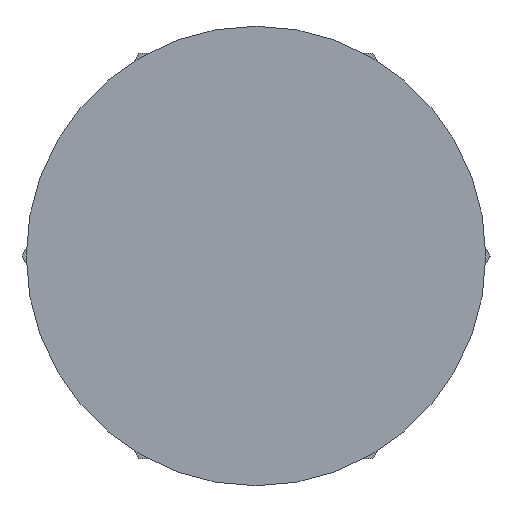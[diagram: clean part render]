
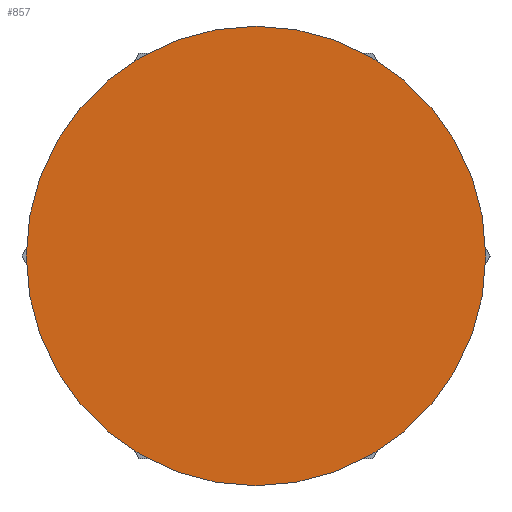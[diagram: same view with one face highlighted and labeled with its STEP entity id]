
A CAD part, left-side view. The second image highlights one B-rep face of the part: STEP entity #857.
In plain terms, the highlighted planar face has unit normal (-1, 0, 0).
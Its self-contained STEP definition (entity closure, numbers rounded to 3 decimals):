
#693 = CYLINDRICAL_SURFACE('',#694,2.7);
#694 = AXIS2_PLACEMENT_3D('',#695,#696,#697);
#695 = CARTESIAN_POINT('',(27.,0.,12.));
#696 = DIRECTION('',(-1.,-0.,-0.));
#697 = DIRECTION('',(0.,1.,0.));
#752 = VERTEX_POINT('',#753);
#753 = CARTESIAN_POINT('',(27.,2.7,12.));
#776 = EDGE_CURVE('',#752,#752,#777,.T.);
#777 = SURFACE_CURVE('',#778,(#783,#790),.PCURVE_S1.);
#778 = CIRCLE('',#779,2.7);
#779 = AXIS2_PLACEMENT_3D('',#780,#781,#782);
#780 = CARTESIAN_POINT('',(27.,0.,12.));
#781 = DIRECTION('',(1.,0.,0.));
#782 = DIRECTION('',(0.,1.,0.));
#783 = PCURVE('',#693,#784);
#784 = DEFINITIONAL_REPRESENTATION('',(#785),#789);
#785 = LINE('',#786,#787);
#786 = CARTESIAN_POINT('',(-0.,0.));
#787 = VECTOR('',#788,1.);
#788 = DIRECTION('',(-1.,0.));
#789 = ( GEOMETRIC_REPRESENTATION_CONTEXT(2) 
PARAMETRIC_REPRESENTATION_CONTEXT() REPRESENTATION_CONTEXT('2D SPACE',''
  ) );
#790 = PCURVE('',#791,#796);
#791 = PLANE('',#792);
#792 = AXIS2_PLACEMENT_3D('',#793,#794,#795);
#793 = CARTESIAN_POINT('',(27.,0.,12.));
#794 = DIRECTION('',(1.,0.,0.));
#795 = DIRECTION('',(-0.,0.,1.));
#796 = DEFINITIONAL_REPRESENTATION('',(#797),#801);
#797 = CIRCLE('',#798,2.7);
#798 = AXIS2_PLACEMENT_2D('',#799,#800);
#799 = CARTESIAN_POINT('',(0.,0.));
#800 = DIRECTION('',(0.,-1.));
#801 = ( GEOMETRIC_REPRESENTATION_CONTEXT(2) 
PARAMETRIC_REPRESENTATION_CONTEXT() REPRESENTATION_CONTEXT('2D SPACE',''
  ) );
#857 = ADVANCED_FACE('',(#858),#791,.F.);
#858 = FACE_BOUND('',#859,.F.);
#859 = EDGE_LOOP('',(#860));
#860 = ORIENTED_EDGE('',*,*,#776,.T.);
